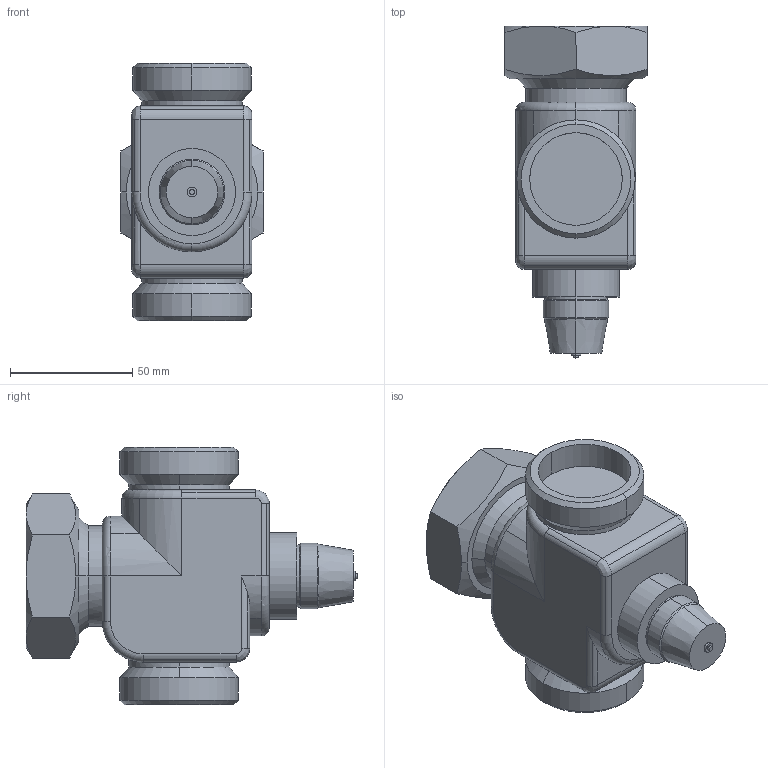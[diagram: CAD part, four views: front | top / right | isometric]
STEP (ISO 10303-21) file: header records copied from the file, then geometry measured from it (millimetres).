
FILE_DESCRIPTION((''),'2;1');
FILE_NAME('000162.stp','2006-09-29T17:20:04',(''),(''),'Mechanical Desktop 2006','Mechanical Desktop 2006',', , ');
FILE_SCHEMA(('AUTOMOTIVE_DESIGN { 1 2 10303 214 0 1 1 1 }'));
Length unit declared in the file: millimetre
Products named in the file (1): Product
Bounding box: 58 x 135.5 x 105 mm (x, y, z)
Volume: 330887.4 mm3; surface area: 57707.9 mm2
Topology: 11 solids, 11 shells, 148 faces, 331 edges, 206 vertices
Faces by surface type: cylinder 64, bspline 35, plane 29, cone 12, torus 8
Entity records: 4713 total; most frequent: CARTESIAN_POINT 1398, DIRECTION 713, ORIENTED_EDGE 662, EDGE_CURVE 331, AXIS2_PLACEMENT_3D 293, VERTEX_POINT 206, CIRCLE 175, EDGE_LOOP 155
